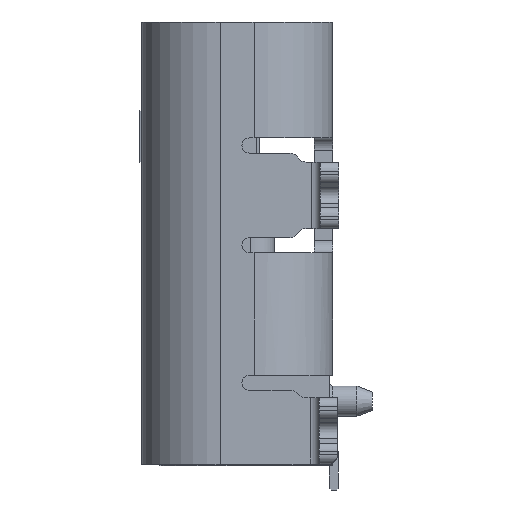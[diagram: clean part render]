
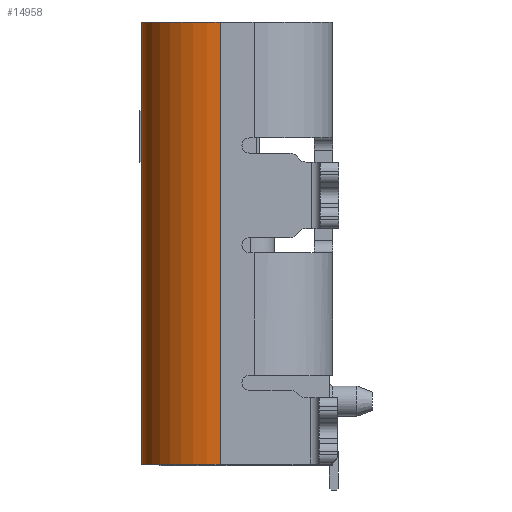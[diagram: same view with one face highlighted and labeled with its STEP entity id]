
A CAD part, left-side view. The second image highlights one B-rep face of the part: STEP entity #14958.
In plain terms, the highlighted cylindrical face has radius 1.3 mm (diameter 2.6 mm), a partial arc.
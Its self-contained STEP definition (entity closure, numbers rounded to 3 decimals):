
#233 = CARTESIAN_POINT ( 'NONE',  ( -13.991, -0.786, 26.561 ) ) ;
#985 = CIRCLE ( 'NONE', #26405, 1.3 ) ;
#1311 = CARTESIAN_POINT ( 'NONE',  ( -12.691, -0.786, 19.095 ) ) ;
#3382 = VECTOR ( 'NONE', #8580, 1000. ) ;
#3555 = AXIS2_PLACEMENT_3D ( 'NONE', #1311, #13516, #9678 ) ;
#4473 = VERTEX_POINT ( 'NONE', #26863 ) ;
#5146 = ORIENTED_EDGE ( 'NONE', *, *, #7280, .F. ) ;
#5587 = AXIS2_PLACEMENT_3D ( 'NONE', #6152, #18102, #7666 ) ;
#6152 = CARTESIAN_POINT ( 'NONE',  ( -12.691, -0.786, 19.241 ) ) ;
#6535 = DIRECTION ( 'NONE',  ( 0., 0., -1. ) ) ;
#7280 = EDGE_CURVE ( 'NONE', #25515, #14466, #8984, .T. ) ;
#7454 = EDGE_LOOP ( 'NONE', ( #5146, #19462, #10665, #17309 ) ) ;
#7666 = DIRECTION ( 'NONE',  ( 0., 1., 0. ) ) ;
#8580 = DIRECTION ( 'NONE',  ( 0., 0., 1. ) ) ;
#8984 = LINE ( 'NONE', #17350, #19710 ) ;
#9111 = DIRECTION ( 'NONE',  ( 0., 0., -1. ) ) ;
#9678 = DIRECTION ( 'NONE',  ( 1., 0., 0. ) ) ;
#10665 = ORIENTED_EDGE ( 'NONE', *, *, #24355, .F. ) ;
#12855 = DIRECTION ( 'NONE',  ( -1., 0., 0. ) ) ;
#13034 = CIRCLE ( 'NONE', #5587, 1.3 ) ;
#13516 = DIRECTION ( 'NONE',  ( 0., 0., 1. ) ) ;
#13660 = FACE_OUTER_BOUND ( 'NONE', #7454, .T. ) ;
#14466 = VERTEX_POINT ( 'NONE', #15206 ) ;
#14958 = ADVANCED_FACE ( 'NONE', ( #13660 ), #24221, .T. ) ;
#15206 = CARTESIAN_POINT ( 'NONE',  ( -13.991, -0.786, 19.241 ) ) ;
#15714 = EDGE_CURVE ( 'NONE', #23543, #14466, #13034, .T. ) ;
#17309 = ORIENTED_EDGE ( 'NONE', *, *, #15714, .T. ) ;
#17350 = CARTESIAN_POINT ( 'NONE',  ( -13.991, -0.786, 26.561 ) ) ;
#18102 = DIRECTION ( 'NONE',  ( 0., 0., 1. ) ) ;
#19462 = ORIENTED_EDGE ( 'NONE', *, *, #21903, .T. ) ;
#19710 = VECTOR ( 'NONE', #9111, 1000. ) ;
#21903 = EDGE_CURVE ( 'NONE', #25515, #4473, #985, .T. ) ;
#23278 = CARTESIAN_POINT ( 'NONE',  ( -12.691, 0.514, 19.241 ) ) ;
#23543 = VERTEX_POINT ( 'NONE', #26056 ) ;
#23678 = CARTESIAN_POINT ( 'NONE',  ( -12.691, -0.786, 26.561 ) ) ;
#24221 = CYLINDRICAL_SURFACE ( 'NONE', #3555, 1.3 ) ;
#24355 = EDGE_CURVE ( 'NONE', #23543, #4473, #25477, .T. ) ;
#25477 = LINE ( 'NONE', #23278, #3382 ) ;
#25515 = VERTEX_POINT ( 'NONE', #233 ) ;
#26056 = CARTESIAN_POINT ( 'NONE',  ( -12.691, 0.514, 19.241 ) ) ;
#26405 = AXIS2_PLACEMENT_3D ( 'NONE', #23678, #6535, #12855 ) ;
#26863 = CARTESIAN_POINT ( 'NONE',  ( -12.691, 0.514, 26.561 ) ) ;
